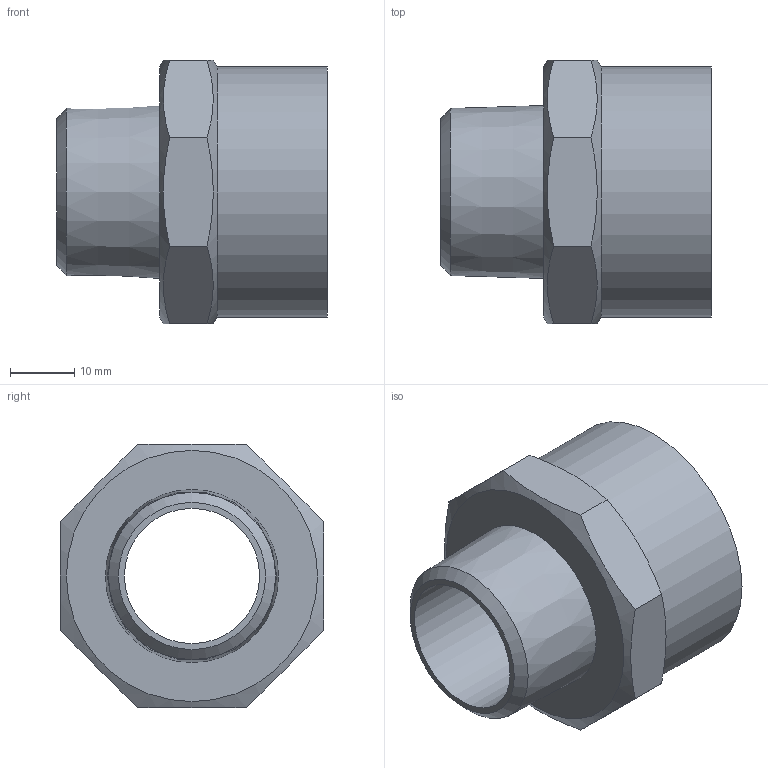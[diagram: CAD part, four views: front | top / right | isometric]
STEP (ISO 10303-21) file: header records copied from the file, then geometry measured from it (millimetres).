
FILE_DESCRIPTION((''),'2;1');
FILE_NAME('\\Lg50001\Groups\SANHA Legnica\Engineering\Public\RYSUNKI\SANHA POLSKA\4243G\step\14243_35-34(3).stp','2008-08-26T08:44:21',('pajchrowski'),(''),'Autodesk Inventor 2008','Autodesk Inventor 2008','');
FILE_SCHEMA(('AUTOMOTIVE_DESIGN { 1 0 10303 214 1 1 1 1 }'));
Length unit declared in the file: millimetre
Products named in the file (1): 14243_35-34(3)
Bounding box: 42 x 40.9 x 40.9 mm (x, y, z)
Volume: 12186.7 mm3; surface area: 10109.6 mm2
Topology: 1 solids, 1 shells, 20 faces, 45 edges, 29 vertices
Faces by surface type: plane 12, cone 5, cylinder 3
Full cylindrical faces by diameter (mm): 21 x1, 35.13 x1, 38.85 x1
Entity records: 512 total; most frequent: CARTESIAN_POINT 115, DIRECTION 72, ORIENTED_EDGE 70, EDGE_CURVE 35, AXIS2_PLACEMENT_3D 32, EDGE_LOOP 32, VERTEX_POINT 27, FACE_OUTER_BOUND 20
